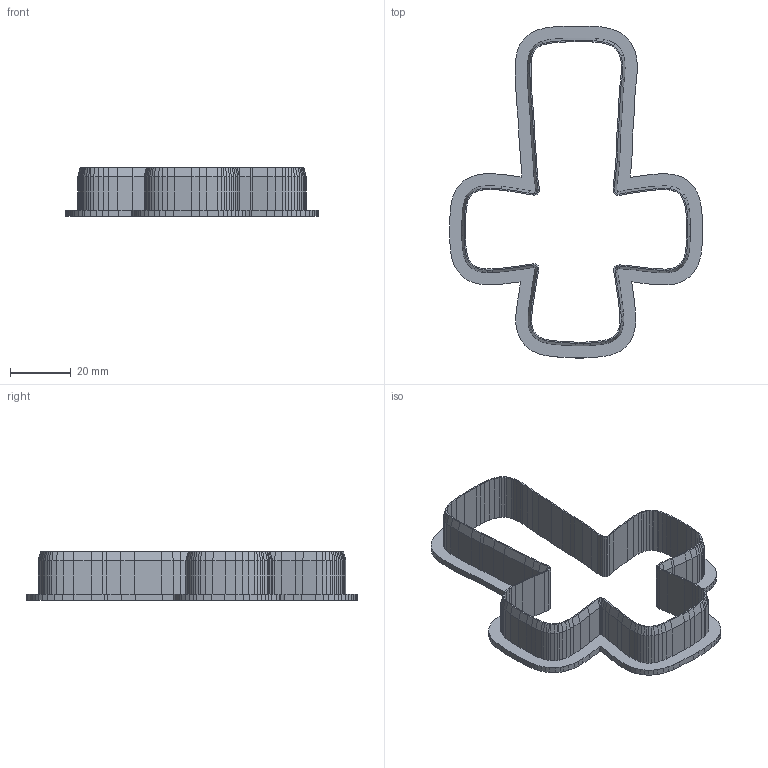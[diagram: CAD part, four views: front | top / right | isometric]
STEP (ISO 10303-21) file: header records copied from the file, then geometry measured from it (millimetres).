
FILE_DESCRIPTION(('Open CASCADE Model'),'2;1');
FILE_NAME('Open CASCADE Shape Model','2026-10-27T21:16:16',('Author'),( 'Open CASCADE'),'Open CASCADE STEP processor 7.9','Open CASCADE 7.9' ,'Unknown');
FILE_SCHEMA(('AUTOMOTIVE_DESIGN { 1 0 10303 214 1 1 1 1 }'));
Length unit declared in the file: millimetre
Products named in the file (1): Open CASCADE STEP translator 7.9 2
Bounding box: 83.14 x 109.21 x 16 mm (x, y, z)
Volume: 8851.1 mm3; surface area: 14166.2 mm2
Topology: 1 solids, 1 shells, 646 faces, 1762 edges, 1119 vertices
Faces by surface type: plane 479, bspline 167
Entity records: 41536 total; most frequent: CARTESIAN_POINT 8687, DIRECTION 5112, LINE 4152, VECTOR 4152, ORIENTED_EDGE 3524, PCURVE 3524, DEFINITIONAL_REPRESENTATION 3524, EDGE_CURVE 1762
